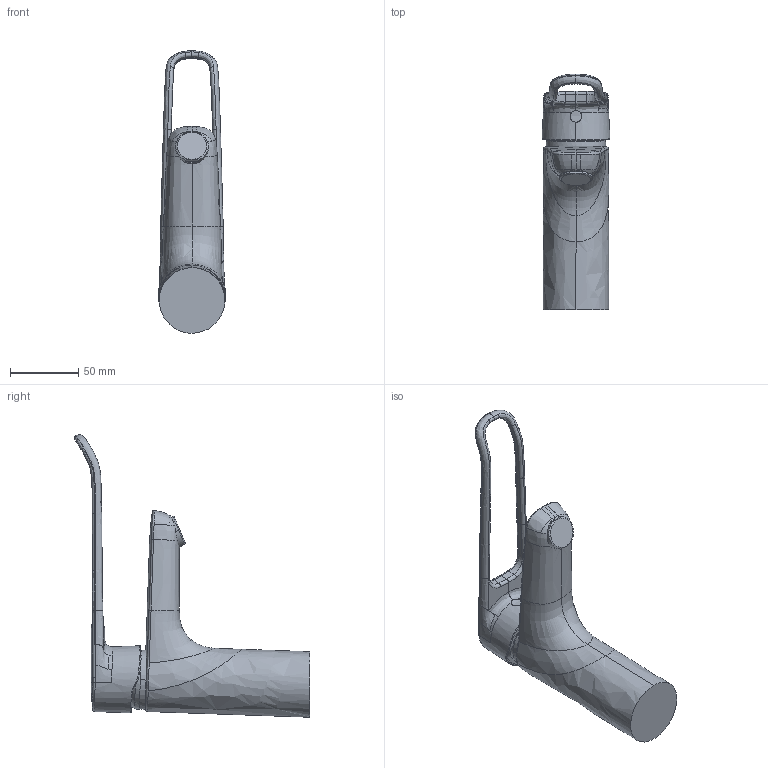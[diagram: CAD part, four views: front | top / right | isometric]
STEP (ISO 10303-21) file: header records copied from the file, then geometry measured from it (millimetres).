
FILE_DESCRIPTION (( 'STEP AP203' ), '1' );
FILE_NAME ('5791BF(2022).STEP', '2022-03-23T05:25:54', ( '' ), ( '' ), 'SwSTEP 2.0', 'SolidWorks 2016', '' );
FILE_SCHEMA (( 'CONFIG_CONTROL_DESIGN' ));
Length unit declared in the file: millimetre
Products named in the file (1): 5791BF(2022)
Bounding box: 49.74 x 173.12 x 207.68 mm (x, y, z)
Volume: 391594.4 mm3; surface area: 49349.1 mm2
Topology: 1 solids, 1 shells, 177 faces, 464 edges, 289 vertices
Faces by surface type: bspline 162, plane 8, cylinder 3, sphere 2, cone 2
Entity records: 31855 total; most frequent: CARTESIAN_POINT 28791, ORIENTED_EDGE 928, EDGE_CURVE 464, B_SPLINE_CURVE_WITH_KNOTS 402, VERTEX_POINT 289, EDGE_LOOP 179, ADVANCED_FACE 177, FACE_OUTER_BOUND 177
